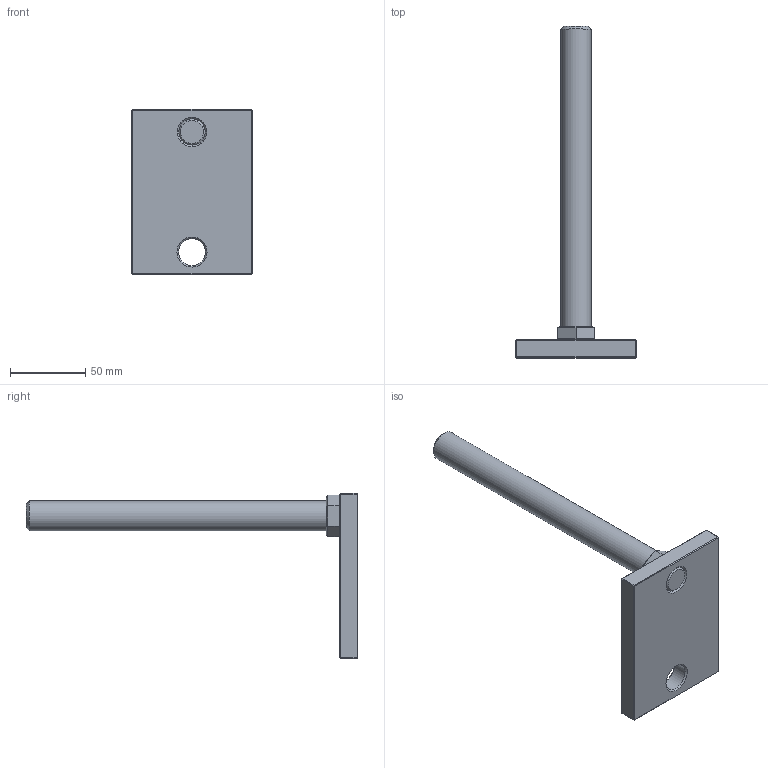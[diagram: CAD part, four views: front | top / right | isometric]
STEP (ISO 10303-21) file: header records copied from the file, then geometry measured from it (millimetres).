
FILE_DESCRIPTION(('STEP AP203'),'2;1');
FILE_NAME('19001.stp','2013-10-21T11:37:58',(''),(''),'2008.1.107','THINKDESIGN','');
FILE_SCHEMA(('CONFIG_CONTROL_DESIGN'));
Length unit declared in the file: millimetre
Bounding box: 80 x 221 x 110 mm (x, y, z)
Volume: 169457.2 mm3; surface area: 38039.7 mm2
Topology: 4 solids, 4 shells, 60 faces, 136 edges, 76 vertices
Faces by surface type: bspline 38, plane 18, cylinder 4
Full cylindrical faces by diameter (mm): 17.5 x2, 18 x1, 20 x1
Entity records: 2991 total; most frequent: CARTESIAN_POINT 1698, ORIENTED_EDGE 256, DIRECTION 200, EDGE_CURVE 128, VECTOR 100, LINE 100, VERTEX_POINT 76, EDGE_LOOP 64
